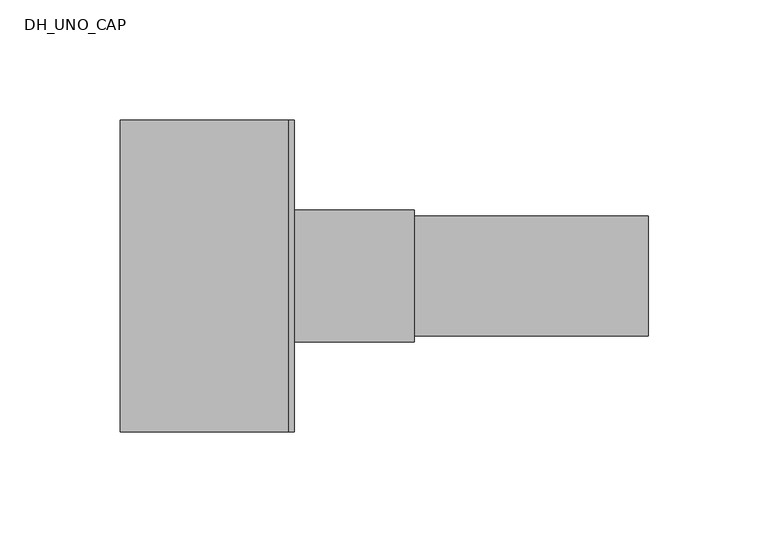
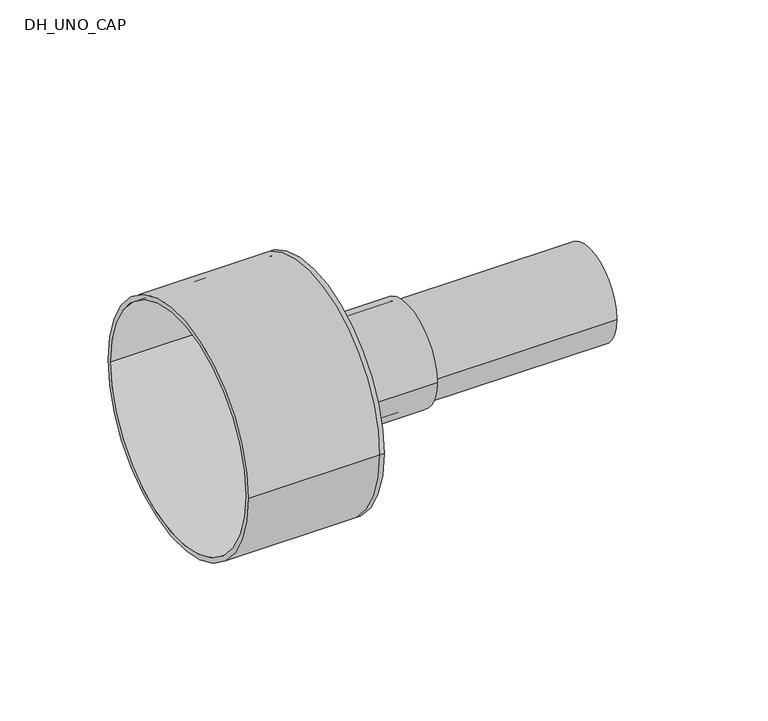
"""IFC4 building model written with IfcOpenShell, lengths in millimetres: pipe fitting geometry, DH_UNO_CAP : INSULPEX UNO + 11 Heating - Rubber Cap."""

from ifc_helpers import new_model, si_unit, point, frame, origin, origin_2d, place, context, project, spatial, polyline, circle_curve, trimmed, segment, composite_curve, outline, extrude, source, transform, mapped, element, save
from ifc_brep_helpers import plane_surface, cylinder_surface, revolved_surface, advanced_brep


def dh_uno_cap_f65759d9(model_context):
    return source(origin(), model_context, "Body", "SolidModel", [
        extrude(outline(composite_curve([segment(trimmed(circle_curve(origin_2d(), 25.0), [point((-25.0, 0.0))], [point((25.0, 0.0))], False, "CARTESIAN"), True, "CONTINUOUS"), segment(trimmed(circle_curve(origin_2d(), 25.0), [point((25.0, 0.0))], [point((-25.0, 0.0))], False, "CARTESIAN"), True, "CONTINUOUS")], self_intersect=False), holes=[composite_curve([segment(trimmed(circle_curve(origin_2d(), 20.4), [point((-20.4, 0.0))], [point((20.4, 0.0))], True, "CARTESIAN"), True, "CONTINUOUS"), segment(trimmed(circle_curve(origin_2d(), 20.4), [point((20.4, 0.0))], [point((-20.4, 0.0))], True, "CARTESIAN"), True, "CONTINUOUS")], self_intersect=False)]), frame((0.0, 0.0, 0.0), z_axis=(1.0, 0.0, 0.0), x_axis=(0.0, 1.0, 0.0)), (0.0, 0.0, 1.0), 150.0),
        advanced_brep(
        [(-70.0, -65.0, 0.0), (-70.0, 65.0, 0.0), (-70.0, -62.5, 0.0), (-70.0, 62.5, 0.0), (0.0, -62.5, 0.0), (0.0, 62.5, 0.0), (0.0, -65.0, 0.0), (0.0, 65.0, 0.0), (0.0, 25.0, 0.0), (0.0, -25.0, 0.0), (2.5, -65.0, 0.0), (2.5, 65.0, 0.0), (2.5, -25.0, 0.0), (2.5, 25.0, 0.0)],
        [
            (0, 1, circle_curve(frame((-70.0, 0.0, 0.0), z_axis=(-1.0, 0.0, 0.0), x_axis=(0.0, 1.0, 0.0)), 65.0)),
            (1, 0, circle_curve(frame((-70.0, 0.0, 0.0), z_axis=(-1.0, 0.0, 0.0), x_axis=(0.0, 1.0, 0.0)), 65.0)),
            (2, 3, circle_curve(frame((-70.0, 0.0, 0.0), z_axis=(1.0, 0.0, 0.0), x_axis=(0.0, 1.0, 0.0)), 62.5)),
            (3, 2, circle_curve(frame((-70.0, 0.0, 0.0), z_axis=(1.0, 0.0, 0.0), x_axis=(0.0, 1.0, 0.0)), 62.5)),
            (2, 4),
            (4, 5, circle_curve(frame((0.0, 0.0, 0.0), z_axis=(1.0, 0.0, 0.0), x_axis=(0.0, 1.0, 0.0)), 62.5)),
            (5, 3),
            (5, 4, circle_curve(frame((0.0, 0.0, 0.0), z_axis=(1.0, 0.0, 0.0), x_axis=(0.0, 1.0, 0.0)), 62.5)),
            (0, 6),
            (6, 7, circle_curve(frame((0.0, 0.0, 0.0), z_axis=(-1.0, 0.0, 0.0), x_axis=(0.0, 1.0, 0.0)), 65.0)),
            (7, 1),
            (7, 6, circle_curve(frame((0.0, 0.0, 0.0), z_axis=(-1.0, 0.0, 0.0), x_axis=(0.0, 1.0, 0.0)), 65.0)),
            (8, 9, circle_curve(frame((0.0, 0.0, 0.0), z_axis=(1.0, 0.0, 0.0), x_axis=(0.0, 1.0, 0.0)), 25.0)),
            (9, 8, circle_curve(frame((0.0, 0.0, 0.0), z_axis=(1.0, 0.0, 0.0), x_axis=(0.0, 1.0, 0.0)), 25.0)),
            (10, 11, circle_curve(frame((2.5, 0.0, 0.0), z_axis=(1.0, 0.0, 0.0), x_axis=(0.0, 1.0, 0.0)), 65.0)),
            (11, 10, circle_curve(frame((2.5, 0.0, 0.0), z_axis=(1.0, 0.0, 0.0), x_axis=(0.0, 1.0, 0.0)), 65.0)),
            (12, 13, circle_curve(frame((2.5, 0.0, 0.0), z_axis=(-1.0, 0.0, 0.0), x_axis=(0.0, 1.0, 0.0)), 25.0)),
            (13, 12, circle_curve(frame((2.5, 0.0, 0.0), z_axis=(-1.0, 0.0, 0.0), x_axis=(0.0, 1.0, 0.0)), 25.0)),
            (11, 7),
            (6, 10),
            (8, 13),
            (12, 9),
        ],
        [
            plane_surface(frame((-70.0, 0.0, 0.0), z_axis=(-1.0, 0.0, 0.0), x_axis=(0.0, 0.0, 1.0))),
            revolved_surface(polyline([(0.0, 62.5, 0.0), (-70.0, 62.5, 0.0)]), (-70.0, 0.0, 0.0), (1.0, 0.0, 0.0)),
            cylinder_surface(frame((-70.0, 0.0, 0.0), z_axis=(-1.0, 0.0, 0.0), x_axis=(0.0, 1.0, 0.0)), 65.0),
            plane_surface(frame((0.0, 0.0, 0.0), z_axis=(-1.0, 0.0, 0.0), x_axis=(0.0, 0.0, 1.0))),
            plane_surface(frame((2.5, 0.0, 0.0), z_axis=(1.0, 0.0, 0.0), x_axis=(0.0, 0.0, 1.0))),
            cylinder_surface(frame((0.0, 0.0, 0.0), z_axis=(-1.0, 0.0, 0.0), x_axis=(0.0, 1.0, 0.0)), 65.0),
            revolved_surface(polyline([(0.0, 25.0, 0.0), (2.5, 25.0, 0.0)]), (0.0, 0.0, 0.0), (-1.0, 0.0, 0.0)),
        ],
        [
            (0, [[1, 2], [3, 4]]),
            (1, [[-3, 5, 6, 7]]),
            (1, [[-4, -7, 8, -5]]),
            (2, [[-1, 9, 10, 11]]),
            (2, [[-2, -11, 12, -9]]),
            (3, [[-6, -8], [13, 14]]),
            (4, [[15, 16], [17, 18]]),
            (5, [[-16, 19, -10, 20]]),
            (5, [[-15, -20, -12, -19]]),
            (6, [[21, -17, 22, -13]]),
            (6, [[-21, -14, -22, -18]]),
        ],
    ),
        extrude(outline(composite_curve([segment(trimmed(circle_curve(origin_2d(), 27.5), [point((-27.5, 0.0))], [point((27.5, 0.0))], False, "CARTESIAN"), True, "CONTINUOUS"), segment(trimmed(circle_curve(origin_2d(), 27.5), [point((27.5, 0.0))], [point((-27.5, 0.0))], False, "CARTESIAN"), True, "CONTINUOUS")], self_intersect=False), holes=[composite_curve([segment(trimmed(circle_curve(origin_2d(), 25.0), [point((-25.0, 0.0))], [point((25.0, 0.0))], True, "CARTESIAN"), True, "CONTINUOUS"), segment(trimmed(circle_curve(origin_2d(), 25.0), [point((25.0, 0.0))], [point((-25.0, 0.0))], True, "CARTESIAN"), True, "CONTINUOUS")], self_intersect=False)]), frame((2.5, 0.0, 0.0), z_axis=(1.0, 0.0, 0.0), x_axis=(0.0, 1.0, 0.0)), (0.0, 0.0, 1.0), 50.0),
    ])


if __name__ == "__main__":
    model = new_model("IFC4")
    model_context = context("Model", 3, world=origin())
    ifc_project = project(units=[si_unit("LENGTHUNIT", "METRE", prefix="MILLI")], contexts=[model_context])
    site = spatial("IfcSite", under=ifc_project)
    building = spatial("IfcBuilding", under=site)
    placement = place(None, origin())
    dh_uno_cap_shape = dh_uno_cap_f65759d9(model_context)
    element("IfcPipeFitting", 1, ObjectType="DH_UNO_CAP : INSULPEX UNO + 11 Heating - Rubber Cap", at=placement, inside=building, context=model_context, shape_type="MappedRepresentation", body=[
        mapped(dh_uno_cap_shape, transform((0.0, 0.0, 0.0), x_axis=(1.0, 0.0, 0.0), y_axis=(0.0, 1.0, 0.0), z_axis=(0.0, 0.0, 1.0))),
    ])
    save(model, "model.ifc")
